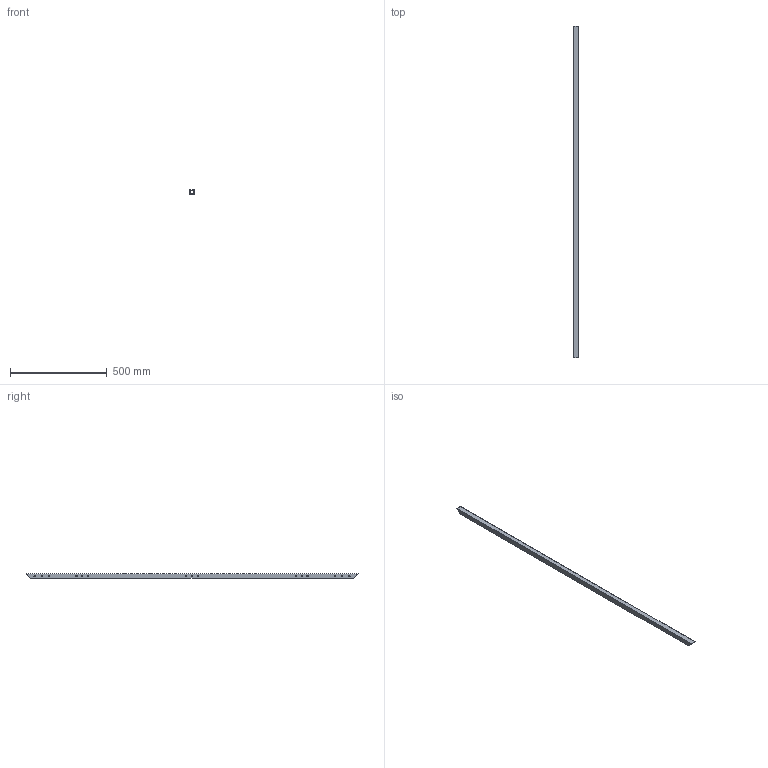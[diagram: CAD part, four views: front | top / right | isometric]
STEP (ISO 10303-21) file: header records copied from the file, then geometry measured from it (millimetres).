
FILE_DESCRIPTION(('FreeCAD Model'),'2;1');
FILE_NAME('Open CASCADE Shape Model','2026-10-06T09:33:39',('FreeCAD'),( 'FreeCAD'),'Open CASCADE STEP processor 7.8','FreeCAD','Unknown');
FILE_SCHEMA(('AUTOMOTIVE_DESIGN { 1 0 10303 214 1 1 1 1 }'));
Length unit declared in the file: millimetre
Products named in the file (1): Open CASCADE STEP translator 7.8 86
Bounding box: 25.4 x 1715.12 x 25.4 mm (x, y, z)
Volume: 373014 mm3; surface area: 248432.2 mm2
Topology: 1 solids, 1 shells, 44 faces, 128 edges, 84 vertices
Faces by surface type: cylinder 30, plane 14
Full cylindrical faces by diameter (mm): 6.6 x30
Entity records: 1618 total; most frequent: DIRECTION 278, CARTESIAN_POINT 257, ORIENTED_EDGE 256, EDGE_CURVE 128, FACE_BOUND 106, EDGE_LOOP 106, AXIS2_PLACEMENT_3D 105, VERTEX_POINT 84
